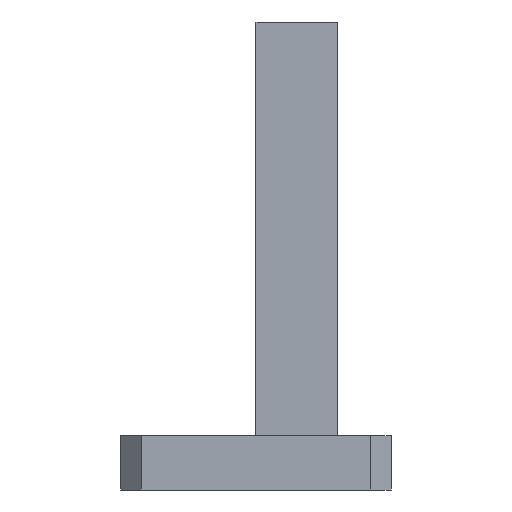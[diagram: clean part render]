
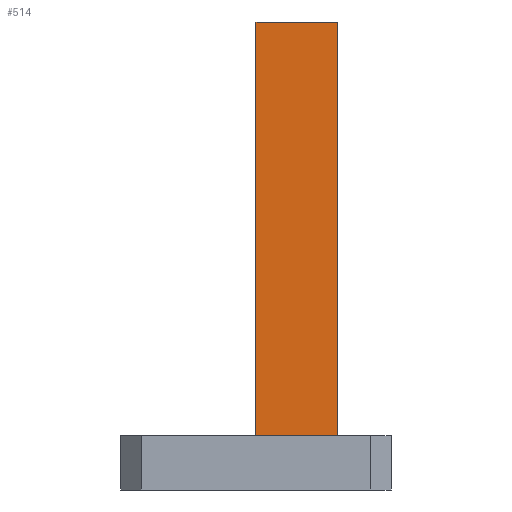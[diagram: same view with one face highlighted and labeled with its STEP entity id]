
A CAD part, left-side view. The second image highlights one B-rep face of the part: STEP entity #514.
In plain terms, the highlighted planar face has unit normal (-1, 0, 0).
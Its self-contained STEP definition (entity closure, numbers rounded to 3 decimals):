
#20 = DIRECTION ( 'NONE',  ( 0., 0., -1. ) ) ;
#23 = EDGE_CURVE ( 'NONE', #857, #41, #873, .T. ) ;
#41 = VERTEX_POINT ( 'NONE', #455 ) ;
#66 = EDGE_CURVE ( 'NONE', #259, #194, #270, .T. ) ;
#136 = CARTESIAN_POINT ( 'NONE',  ( -36.5, 0., 8. ) ) ;
#185 = ORIENTED_EDGE ( 'NONE', *, *, #66, .T. ) ;
#194 = VERTEX_POINT ( 'NONE', #136 ) ;
#213 = VECTOR ( 'NONE', #292, 1000. ) ;
#214 = VECTOR ( 'NONE', #971, 1000. ) ;
#259 = VERTEX_POINT ( 'NONE', #907 ) ;
#270 = LINE ( 'NONE', #627, #213 ) ;
#284 = VECTOR ( 'NONE', #433, 1000. ) ;
#292 = DIRECTION ( 'NONE',  ( 0., 0., -1. ) ) ;
#320 = AXIS2_PLACEMENT_3D ( 'NONE', #952, #526, #20 ) ;
#325 = ORIENTED_EDGE ( 'NONE', *, *, #722, .T. ) ;
#433 = DIRECTION ( 'NONE',  ( 0., -1., 0. ) ) ;
#455 = CARTESIAN_POINT ( 'NONE',  ( -36.5, -12., 8. ) ) ;
#514 = ADVANCED_FACE ( 'NONE', ( #788 ), #617, .F. ) ;
#526 = DIRECTION ( 'NONE',  ( 1., 0., 0. ) ) ;
#579 = EDGE_CURVE ( 'NONE', #259, #857, #803, .T. ) ;
#587 = EDGE_LOOP ( 'NONE', ( #325, #1004, #885, #185 ) ) ;
#601 = CARTESIAN_POINT ( 'NONE',  ( -36.5, 0., 8. ) ) ;
#617 = PLANE ( 'NONE',  #320 ) ;
#627 = CARTESIAN_POINT ( 'NONE',  ( -36.5, 0., 69.3 ) ) ;
#718 = CARTESIAN_POINT ( 'NONE',  ( -36.5, 0., 69.3 ) ) ;
#722 = EDGE_CURVE ( 'NONE', #194, #41, #816, .T. ) ;
#788 = FACE_OUTER_BOUND ( 'NONE', #587, .T. ) ;
#794 = CARTESIAN_POINT ( 'NONE',  ( -36.5, -12., 69.3 ) ) ;
#803 = LINE ( 'NONE', #718, #214 ) ;
#816 = LINE ( 'NONE', #601, #284 ) ;
#857 = VERTEX_POINT ( 'NONE', #875 ) ;
#873 = LINE ( 'NONE', #794, #973 ) ;
#875 = CARTESIAN_POINT ( 'NONE',  ( -36.5, -12., 69.3 ) ) ;
#885 = ORIENTED_EDGE ( 'NONE', *, *, #579, .F. ) ;
#907 = CARTESIAN_POINT ( 'NONE',  ( -36.5, 0., 69.3 ) ) ;
#952 = CARTESIAN_POINT ( 'NONE',  ( -36.5, 0., 69.3 ) ) ;
#956 = DIRECTION ( 'NONE',  ( 0., 0., -1. ) ) ;
#971 = DIRECTION ( 'NONE',  ( 0., -1., 0. ) ) ;
#973 = VECTOR ( 'NONE', #956, 1000. ) ;
#1004 = ORIENTED_EDGE ( 'NONE', *, *, #23, .F. ) ;
